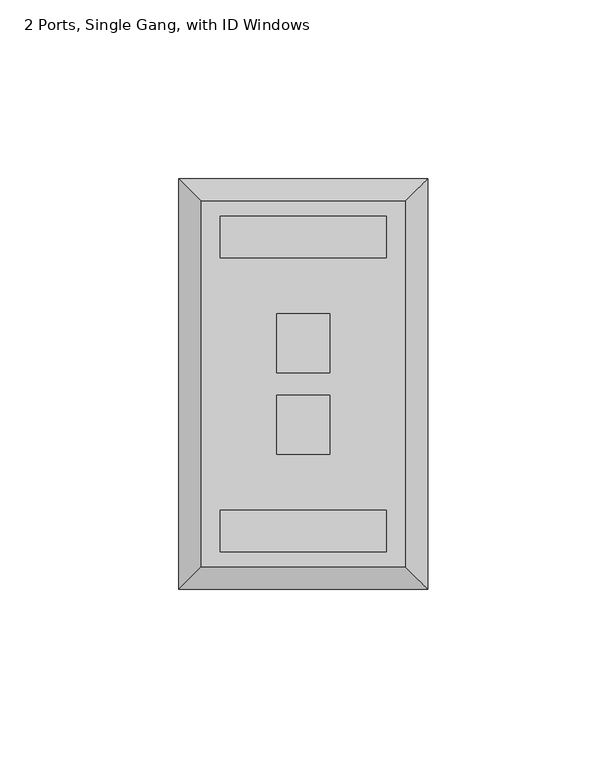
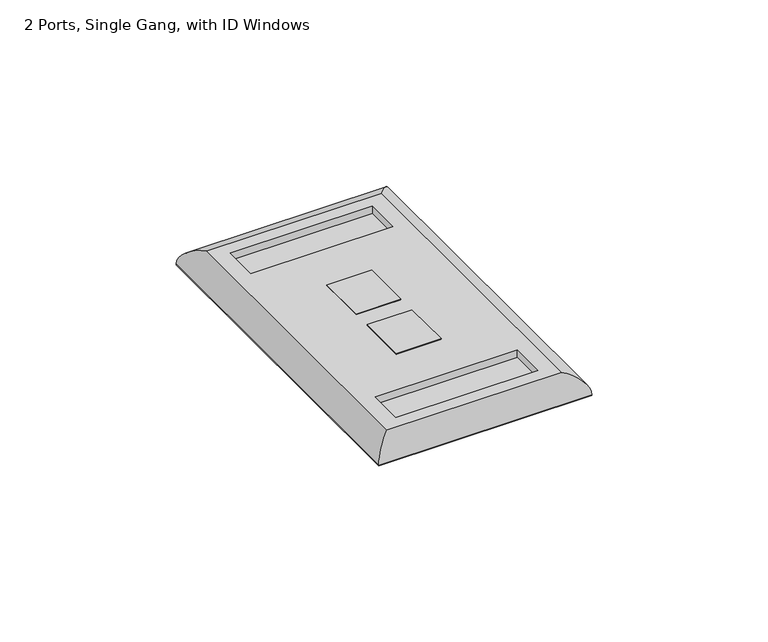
"""IFC4 building model written with IfcOpenShell, lengths in millimetres: electric appliance geometry, Data_Device-Work_Area-Leviton-QuickPort-Wallplate : 2 Ports, Single Gang, with ID Windows."""

from ifc_helpers import new_model, si_unit, frame, origin, origin_with_axes, place, context, project, spatial, polyline, ellipse_curve, outline, extrude, source, transform, mapped, element, save
from ifc_brep_helpers import plane_surface, cylinder_surface, advanced_brep


def electric_appliance_2_ports_single_gang_with_id_windows_ff7899da(model_context):
    return source(origin(), model_context, "Body", "SolidModel", [
        extrude(outline(polyline([(-15.6591, 27.813), (-15.6591, 11.303), (-30.3911, 11.303), (-30.3911, 27.813), (-15.6591, 27.813)])), origin_with_axes(), (0.0, 0.0, 1.0), 6.35),
        extrude(outline(polyline([(-15.6591, -11.43), (-30.3911, -11.43), (-30.3911, 5.08), (-15.6591, 5.08), (-15.6591, -11.43)])), origin_with_axes(), (0.0, 0.0, 1.0), 6.35),
        advanced_brep(
        [(5.5499, -42.9895, 6.35), (5.5499, 59.3725, 6.35), (-51.6001, 59.3725, 6.35), (-51.6001, -42.9895, 6.35), (-30.3911, 27.813, 6.35), (-15.6591, 27.813, 6.35), (-15.6591, 11.303, 6.35), (-30.3911, 11.303, 6.35), (-30.3911, 5.08, 6.35), (-15.6591, 5.08, 6.35), (-15.6591, -11.43, 6.35), (-30.3911, -11.43, 6.35), (-46.2661, 55.1815, 6.35), (0.2159, 55.1815, 6.35), (0.2159, 43.4975, 6.35), (-46.2661, 43.4975, 6.35), (0.2159, -27.1145, 6.35), (0.2159, -38.7985, 6.35), (-46.2661, -38.7985, 6.35), (-46.2661, -27.1145, 6.35), (11.8999, 65.7225, 0.0), (11.8999, -49.3395, 0.0), (-57.9501, -49.3395, 0.0), (-57.9501, 65.7225, 0.0), (-15.6591, 27.813, 0.0), (-30.3911, 27.813, 0.0), (-30.3911, 11.303, 0.0), (-15.6591, 11.303, 0.0), (-15.6591, 5.08, 0.0), (-30.3911, 5.08, 0.0), (-30.3911, -11.43, 0.0), (-15.6591, -11.43, 0.0), (-57.9501, 65.7225, 0.254), (11.8999, 65.7225, 0.254), (-57.9501, -49.3395, 0.254), (11.8999, -49.3395, 0.254), (0.2159, 55.1815, 3.81), (-46.2661, 55.1815, 3.81), (-46.2661, 43.4975, 3.81), (0.2159, 43.4975, 3.81), (0.2159, -38.7985, 3.81), (0.2159, -27.1145, 3.81), (-46.2661, -27.1145, 3.81), (-46.2661, -38.7985, 3.81)],
        [
            (0, 1),
            (1, 2),
            (2, 3),
            (3, 0),
            (4, 5),
            (5, 6),
            (6, 7),
            (7, 4),
            (8, 9),
            (9, 10),
            (10, 11),
            (11, 8),
            (12, 13),
            (13, 14),
            (14, 15),
            (15, 12),
            (16, 17),
            (17, 18),
            (18, 19),
            (19, 16),
            (20, 21),
            (21, 22),
            (22, 23),
            (23, 20),
            (24, 25),
            (25, 26),
            (26, 27),
            (27, 24),
            (28, 29),
            (29, 30),
            (30, 31),
            (31, 28),
            (23, 32),
            (32, 33),
            (33, 20),
            (22, 34),
            (34, 32),
            (21, 35),
            (35, 34),
            (33, 35),
            (4, 25),
            (24, 5),
            (7, 26),
            (6, 27),
            (8, 29),
            (28, 9),
            (11, 30),
            (10, 31),
            (36, 37),
            (37, 38),
            (38, 39),
            (39, 36),
            (40, 41),
            (41, 42),
            (42, 43),
            (43, 40),
            (36, 13),
            (12, 37),
            (15, 38),
            (14, 39),
            (40, 17),
            (16, 41),
            (19, 42),
            (18, 43),
            (0, 35, ellipse_curve(frame((5.5499, -42.9895, -0.0052917), z_axis=(0.7071067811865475, 0.7071067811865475, 0.0), x_axis=(0.7071067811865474, -0.7071067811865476, 0.0)), 8.9877397, 6.3552917)),
            (33, 1, ellipse_curve(frame((5.5499, 59.3725, -0.0052917), z_axis=(0.7071067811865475, -0.7071067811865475, 0.0), x_axis=(-0.7071067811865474, -0.7071067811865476, 0.0)), 8.9877397, 6.3552917)),
            (3, 34, ellipse_curve(frame((-51.6001, -42.9895, -0.0052917), z_axis=(0.7071067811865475, -0.7071067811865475, 0.0), x_axis=(-0.7071067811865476, -0.7071067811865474, 0.0)), 8.9877397, 6.3552917)),
            (2, 32, ellipse_curve(frame((-51.6001, 59.3725, -0.0052917), z_axis=(-0.7071067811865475, -0.7071067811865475, 0.0), x_axis=(-0.7071067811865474, 0.7071067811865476, 0.0)), 8.9877397, 6.3552917)),
        ],
        [
            plane_surface(frame((-57.9501, 65.7225, 6.35), z_axis=(0.0, 0.0, 1.0), x_axis=(-1.0, 0.0, 0.0))),
            plane_surface(frame((-57.9501, 65.7225, 0.0), z_axis=(0.0, 0.0, -1.0), x_axis=(1.0, 0.0, 0.0))),
            plane_surface(frame((11.8999, 65.7225, 6.35), z_axis=(0.0, 1.0, 0.0), x_axis=(0.0, 0.0, -1.0))),
            plane_surface(frame((-57.9501, 65.7225, 6.35), z_axis=(-1.0, 0.0, 0.0), x_axis=(0.0, 0.0, -1.0))),
            plane_surface(frame((-57.9501, -49.3395, 6.35), z_axis=(0.0, -1.0, 0.0), x_axis=(0.0, 0.0, -1.0))),
            plane_surface(frame((11.8999, -49.3395, 6.35), z_axis=(1.0, 0.0, 0.0), x_axis=(0.0, 0.0, -1.0))),
            plane_surface(frame((-15.6591, 27.813, 6.35), z_axis=(0.0, -1.0, 0.0), x_axis=(0.0, 0.0, -1.0))),
            plane_surface(frame((-30.3911, 27.813, 6.35), z_axis=(1.0, 0.0, 0.0), x_axis=(0.0, 0.0, -1.0))),
            plane_surface(frame((-30.3911, 11.303, 6.35), z_axis=(0.0, 1.0, 0.0), x_axis=(0.0, 0.0, -1.0))),
            plane_surface(frame((-15.6591, 11.303, 6.35), z_axis=(-1.0, 0.0, 0.0), x_axis=(0.0, 0.0, -1.0))),
            plane_surface(frame((-15.6591, 5.08, 6.35), z_axis=(0.0, -1.0, 0.0), x_axis=(0.0, 0.0, -1.0))),
            plane_surface(frame((-30.3911, 5.08, 6.35), z_axis=(1.0, 0.0, 0.0), x_axis=(0.0, 0.0, -1.0))),
            plane_surface(frame((-30.3911, -11.43, 6.35), z_axis=(0.0, 1.0, 0.0), x_axis=(0.0, 0.0, -1.0))),
            plane_surface(frame((-15.6591, -11.43, 6.35), z_axis=(-1.0, 0.0, 0.0), x_axis=(0.0, 0.0, -1.0))),
            plane_surface(frame((-46.2661, 55.1815, 3.81), z_axis=(0.0, 0.0, 1.0), x_axis=(1.0, 0.0, 0.0))),
            plane_surface(frame((0.2159, 55.1815, 6.35), z_axis=(0.0, -1.0, 0.0), x_axis=(0.0, 0.0, -1.0))),
            plane_surface(frame((-46.2661, 55.1815, 6.35), z_axis=(1.0, 0.0, 0.0), x_axis=(0.0, 0.0, -1.0))),
            plane_surface(frame((-46.2661, 43.4975, 6.35), z_axis=(0.0, 1.0, 0.0), x_axis=(0.0, 0.0, -1.0))),
            plane_surface(frame((0.2159, 43.4975, 6.35), z_axis=(-1.0, 0.0, 0.0), x_axis=(0.0, 0.0, -1.0))),
            plane_surface(frame((0.2159, -38.7985, 6.35), z_axis=(-1.0, 0.0, 0.0), x_axis=(0.0, 0.0, -1.0))),
            plane_surface(frame((0.2159, -27.1145, 6.35), z_axis=(0.0, -1.0, 0.0), x_axis=(0.0, 0.0, -1.0))),
            plane_surface(frame((-46.2661, -27.1145, 6.35), z_axis=(1.0, 0.0, 0.0), x_axis=(0.0, 0.0, -1.0))),
            plane_surface(frame((-46.2661, -38.7985, 6.35), z_axis=(0.0, 1.0, 0.0), x_axis=(0.0, 0.0, -1.0))),
            cylinder_surface(frame((5.5499, 65.7225, -0.0052917), z_axis=(0.0, -1.0, 0.0), x_axis=(1.0, 0.0, 0.0)), 6.3552917),
            cylinder_surface(frame((11.8999, -42.9895, -0.0052917), z_axis=(-1.0, 0.0, 0.0), x_axis=(0.0, -1.0, 0.0)), 6.3552917),
            cylinder_surface(frame((-51.6001, -49.3395, -0.0052917), z_axis=(0.0, 1.0, 0.0), x_axis=(-1.0, 0.0, 0.0)), 6.3552917),
            cylinder_surface(frame((-57.9501, 59.3725, -0.0052917), z_axis=(1.0, 0.0, 0.0), x_axis=(0.0, 1.0, 0.0)), 6.3552917),
        ],
        [
            (0, [[1, 2, 3, 4], [5, 6, 7, 8], [9, 10, 11, 12], [13, 14, 15, 16], [17, 18, 19, 20]]),
            (1, [[21, 22, 23, 24], [25, 26, 27, 28], [29, 30, 31, 32]]),
            (2, [[-24, 33, 34, 35]]),
            (3, [[-23, 36, 37, -33]]),
            (4, [[-22, 38, 39, -36]]),
            (5, [[-21, -35, 40, -38]]),
            (6, [[41, -25, 42, -5]]),
            (7, [[-41, -8, 43, -26]]),
            (8, [[-43, -7, 44, -27]]),
            (9, [[-42, -28, -44, -6]]),
            (10, [[45, -29, 46, -9]]),
            (11, [[-45, -12, 47, -30]]),
            (12, [[-47, -11, 48, -31]]),
            (13, [[-46, -32, -48, -10]]),
            (14, [[49, 50, 51, 52]]),
            (14, [[53, 54, 55, 56]]),
            (15, [[-49, 57, -13, 58]]),
            (16, [[-50, -58, -16, 59]]),
            (17, [[-51, -59, -15, 60]]),
            (18, [[-52, -60, -14, -57]]),
            (19, [[-53, 61, -17, 62]]),
            (20, [[-54, -62, -20, 63]]),
            (21, [[-55, -63, -19, 64]]),
            (22, [[-56, -64, -18, -61]]),
            (23, [[65, -40, 66, -1]]),
            (24, [[-65, -4, 67, -39]]),
            (25, [[-67, -3, 68, -37]]),
            (26, [[-66, -34, -68, -2]]),
        ],
    ),
        extrude(outline(polyline([(11.6459, 65.4685), (11.6459, -49.0855), (-57.6961, -49.0855), (-57.6961, 65.4685), (11.6459, 65.4685)]), holes=[polyline([(-15.6591, 27.813), (-30.3911, 27.813), (-30.3911, 11.303), (-15.6591, 11.303), (-15.6591, 27.813)]), polyline([(-15.6591, 5.08), (-30.3911, 5.08), (-30.3911, -11.43), (-15.6591, -11.43), (-15.6591, 5.08)])]), origin_with_axes(), (0.0, 0.0, 1.0), 0.254),
    ])


if __name__ == "__main__":
    model = new_model("IFC4")
    model_context = context("Model", 3, world=origin())
    ifc_project = project(units=[si_unit("LENGTHUNIT", "METRE", prefix="MILLI")], contexts=[model_context])
    site = spatial("IfcSite", under=ifc_project)
    building = spatial("IfcBuilding", under=site)
    placement = place(None, origin())
    electric_appliance_2_ports_single_gang_with_id_windows_shape = electric_appliance_2_ports_single_gang_with_id_windows_ff7899da(model_context)
    element("IfcElectricAppliance", 1, ObjectType="Data_Device-Work_Area-Leviton-QuickPort-Wallplate : 2 Ports, Single Gang, with ID Windows", at=placement, inside=building, context=model_context, shape_type="MappedRepresentation", body=[
        mapped(electric_appliance_2_ports_single_gang_with_id_windows_shape, transform((0.0, 0.0, 0.0), x_axis=(1.0, 0.0, 0.0), y_axis=(0.0, 1.0, 0.0), z_axis=(0.0, 0.0, 1.0))),
    ])
    save(model, "model.ifc")
